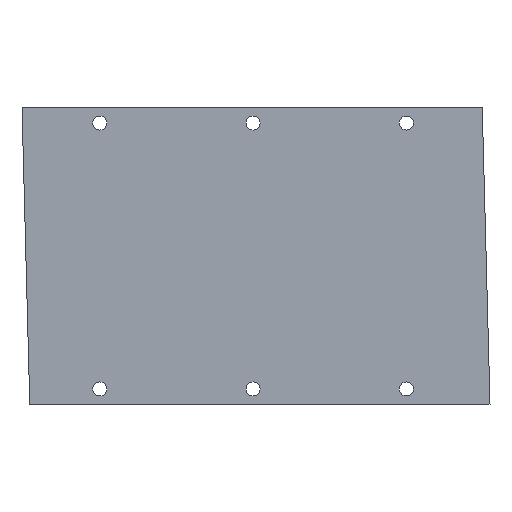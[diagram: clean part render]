
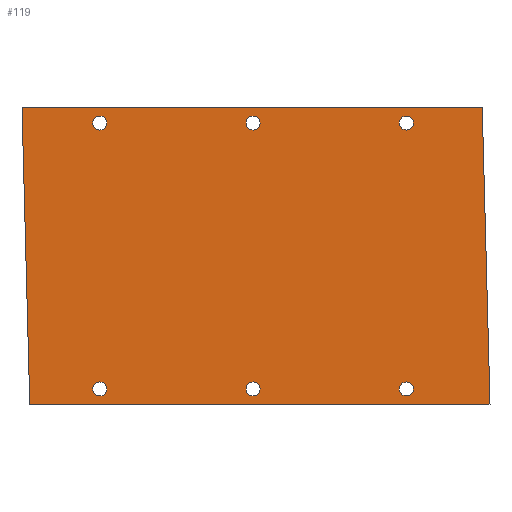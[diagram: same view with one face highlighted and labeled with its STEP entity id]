
A CAD part, front view. The second image highlights one B-rep face of the part: STEP entity #119.
In plain terms, the highlighted planar face has unit normal (0, -1, 0).
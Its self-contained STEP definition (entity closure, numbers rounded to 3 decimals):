
#8 = VERTEX_POINT ( 'NONE', #779 ) ;
#19 = VERTEX_POINT ( 'NONE', #731 ) ;
#37 = VERTEX_POINT ( 'NONE', #850 ) ;
#51 = EDGE_CURVE ( 'NONE', #84, #142, #832, .T. ) ;
#69 = EDGE_CURVE ( 'NONE', #37, #73, #857, .T. ) ;
#71 = EDGE_CURVE ( 'NONE', #19, #8, #858, .T. ) ;
#73 = VERTEX_POINT ( 'NONE', #889 ) ;
#84 = VERTEX_POINT ( 'NONE', #943 ) ;
#112 = ORIENTED_EDGE ( 'NONE', *, *, #117, .T. ) ;
#113 = EDGE_LOOP ( 'NONE', ( #383, #377 ) ) ;
#114 = EDGE_CURVE ( 'NONE', #8, #19, #967, .T. ) ;
#117 = EDGE_CURVE ( 'NONE', #73, #37, #285, .T. ) ;
#118 = EDGE_CURVE ( 'NONE', #142, #84, #1009, .T. ) ;
#119 = ADVANCED_FACE ( 'NONE', ( #1015, #1014, #1012, #1019, #1017, #1016, #1003 ), #1013, .F. ) ;
#123 = ORIENTED_EDGE ( 'NONE', *, *, #368, .F. ) ;
#142 = VERTEX_POINT ( 'NONE', #1078 ) ;
#148 = VERTEX_POINT ( 'NONE', #1050 ) ;
#156 = VERTEX_POINT ( 'NONE', #1052 ) ;
#158 = EDGE_CURVE ( 'NONE', #156, #148, #1073, .T. ) ;
#256 = VERTEX_POINT ( 'NONE', #1285 ) ;
#257 = VERTEX_POINT ( 'NONE', #1268 ) ;
#261 = VERTEX_POINT ( 'NONE', #1329 ) ;
#268 = EDGE_CURVE ( 'NONE', #270, #261, #1330, .T. ) ;
#270 = VERTEX_POINT ( 'NONE', #1311 ) ;
#276 = CARTESIAN_POINT ( 'NONE',  ( 621.854, 0., -111. ) ) ;
#285 = CIRCLE ( 'NONE', #660, 2.75 ) ;
#296 = VERTEX_POINT ( 'NONE', #1340 ) ;
#303 = EDGE_CURVE ( 'NONE', #296, #304, #1383, .T. ) ;
#304 = VERTEX_POINT ( 'NONE', #1341 ) ;
#337 = ORIENTED_EDGE ( 'NONE', *, *, #71, .T. ) ;
#339 = EDGE_LOOP ( 'NONE', ( #112, #412 ) ) ;
#340 = EDGE_LOOP ( 'NONE', ( #382, #337 ) ) ;
#346 = EDGE_CURVE ( 'NONE', #369, #296, #1458, .T. ) ;
#348 = VERTEX_POINT ( 'NONE', #1403 ) ;
#353 = EDGE_CURVE ( 'NONE', #348, #304, #1491, .T. ) ;
#368 = EDGE_CURVE ( 'NONE', #369, #348, #1477, .T. ) ;
#369 = VERTEX_POINT ( 'NONE', #1232 ) ;
#376 = ORIENTED_EDGE ( 'NONE', *, *, #400, .T. ) ;
#377 = ORIENTED_EDGE ( 'NONE', *, *, #51, .T. ) ;
#382 = ORIENTED_EDGE ( 'NONE', *, *, #114, .T. ) ;
#383 = ORIENTED_EDGE ( 'NONE', *, *, #118, .T. ) ;
#388 = EDGE_CURVE ( 'NONE', #257, #256, #1526, .T. ) ;
#389 = ORIENTED_EDGE ( 'NONE', *, *, #1925, .T. ) ;
#390 = ORIENTED_EDGE ( 'NONE', *, *, #353, .F. ) ;
#391 = ORIENTED_EDGE ( 'NONE', *, *, #346, .T. ) ;
#394 = ORIENTED_EDGE ( 'NONE', *, *, #411, .T. ) ;
#395 = EDGE_LOOP ( 'NONE', ( #376, #401 ) ) ;
#396 = EDGE_LOOP ( 'NONE', ( #394, #399 ) ) ;
#398 = ORIENTED_EDGE ( 'NONE', *, *, #388, .T. ) ;
#399 = ORIENTED_EDGE ( 'NONE', *, *, #158, .T. ) ;
#400 = EDGE_CURVE ( 'NONE', #261, #270, #1518, .T. ) ;
#401 = ORIENTED_EDGE ( 'NONE', *, *, #268, .T. ) ;
#402 = ORIENTED_EDGE ( 'NONE', *, *, #303, .T. ) ;
#409 = EDGE_LOOP ( 'NONE', ( #402, #390, #123, #391 ) ) ;
#410 = EDGE_LOOP ( 'NONE', ( #398, #389 ) ) ;
#411 = EDGE_CURVE ( 'NONE', #148, #156, #1503, .T. ) ;
#412 = ORIENTED_EDGE ( 'NONE', *, *, #69, .T. ) ;
#660 = AXIS2_PLACEMENT_3D ( 'NONE', #276, #947, #948 ) ;
#731 = CARTESIAN_POINT ( 'NONE',  ( 621.854, 0., -9.75 ) ) ;
#779 = CARTESIAN_POINT ( 'NONE',  ( 621.854, 0., -4.25 ) ) ;
#832 = CIRCLE ( 'NONE', #871, 2.75 ) ;
#850 = CARTESIAN_POINT ( 'NONE',  ( 621.854, 0., -113.75 ) ) ;
#857 = CIRCLE ( 'NONE', #901, 2.75 ) ;
#858 = CIRCLE ( 'NONE', #896, 2.75 ) ;
#869 = DIRECTION ( 'NONE',  ( 0., 0., 1. ) ) ;
#870 = DIRECTION ( 'NONE',  ( 0., 1., 0. ) ) ;
#871 = AXIS2_PLACEMENT_3D ( 'NONE', #877, #870, #869 ) ;
#877 = CARTESIAN_POINT ( 'NONE',  ( 561.854, 0., -7. ) ) ;
#886 = DIRECTION ( 'NONE',  ( 0., 0., 1. ) ) ;
#887 = DIRECTION ( 'NONE',  ( 0., 1., 0. ) ) ;
#888 = CARTESIAN_POINT ( 'NONE',  ( 621.854, 0., -7. ) ) ;
#889 = CARTESIAN_POINT ( 'NONE',  ( 621.854, 0., -108.25 ) ) ;
#896 = AXIS2_PLACEMENT_3D ( 'NONE', #888, #887, #886 ) ;
#898 = DIRECTION ( 'NONE',  ( 0., 0., 1. ) ) ;
#899 = DIRECTION ( 'NONE',  ( 0., 1., 0. ) ) ;
#900 = CARTESIAN_POINT ( 'NONE',  ( 621.854, 0., -111. ) ) ;
#901 = AXIS2_PLACEMENT_3D ( 'NONE', #900, #899, #898 ) ;
#943 = CARTESIAN_POINT ( 'NONE',  ( 561.854, 0., -9.75 ) ) ;
#947 = DIRECTION ( 'NONE',  ( 0., 1., 0. ) ) ;
#948 = DIRECTION ( 'NONE',  ( 0., 0., 1. ) ) ;
#957 = DIRECTION ( 'NONE',  ( 0., 0., 1. ) ) ;
#958 = DIRECTION ( 'NONE',  ( 0., 1., 0. ) ) ;
#959 = CARTESIAN_POINT ( 'NONE',  ( 621.854, 0., -7. ) ) ;
#960 = AXIS2_PLACEMENT_3D ( 'NONE', #959, #958, #957 ) ;
#967 = CIRCLE ( 'NONE', #960, 2.75 ) ;
#997 = DIRECTION ( 'NONE',  ( 0., 0., 1. ) ) ;
#1003 = FACE_OUTER_BOUND ( 'NONE', #409, .T. ) ;
#1005 = DIRECTION ( 'NONE',  ( 0., 0., 1. ) ) ;
#1006 = DIRECTION ( 'NONE',  ( 0., 1., 0. ) ) ;
#1007 = CARTESIAN_POINT ( 'NONE',  ( 561.854, 0., -7. ) ) ;
#1008 = AXIS2_PLACEMENT_3D ( 'NONE', #1007, #1006, #1005 ) ;
#1009 = CIRCLE ( 'NONE', #1008, 2.75 ) ;
#1010 = DIRECTION ( 'NONE',  ( 0., 1., 0. ) ) ;
#1011 = CARTESIAN_POINT ( 'NONE',  ( 394.308, 0., -59. ) ) ;
#1012 = FACE_BOUND ( 'NONE', #113, .T. ) ;
#1013 = PLANE ( 'NONE',  #1018 ) ;
#1014 = FACE_BOUND ( 'NONE', #339, .T. ) ;
#1015 = FACE_BOUND ( 'NONE', #340, .T. ) ;
#1016 = FACE_BOUND ( 'NONE', #410, .T. ) ;
#1017 = FACE_BOUND ( 'NONE', #395, .T. ) ;
#1018 = AXIS2_PLACEMENT_3D ( 'NONE', #1011, #1010, #997 ) ;
#1019 = FACE_BOUND ( 'NONE', #396, .T. ) ;
#1050 = CARTESIAN_POINT ( 'NONE',  ( 561.854, 0., -108.25 ) ) ;
#1052 = CARTESIAN_POINT ( 'NONE',  ( 561.854, 0., -113.75 ) ) ;
#1055 = CARTESIAN_POINT ( 'NONE',  ( 561.854, 0., -111. ) ) ;
#1073 = CIRCLE ( 'NONE', #1107, 2.75 ) ;
#1078 = CARTESIAN_POINT ( 'NONE',  ( 561.854, 0., -4.25 ) ) ;
#1091 = DIRECTION ( 'NONE',  ( 0., 0., 1. ) ) ;
#1100 = DIRECTION ( 'NONE',  ( 0., 1., 0. ) ) ;
#1107 = AXIS2_PLACEMENT_3D ( 'NONE', #1055, #1100, #1091 ) ;
#1232 = CARTESIAN_POINT ( 'NONE',  ( 474.521, 0., -117. ) ) ;
#1268 = CARTESIAN_POINT ( 'NONE',  ( 501.854, 0., -108.25 ) ) ;
#1285 = CARTESIAN_POINT ( 'NONE',  ( 501.854, 0., -113.75 ) ) ;
#1309 = DIRECTION ( 'NONE',  ( 0., 0., 1. ) ) ;
#1310 = DIRECTION ( 'NONE',  ( 0., 1., 0. ) ) ;
#1311 = CARTESIAN_POINT ( 'NONE',  ( 501.854, 0., -9.75 ) ) ;
#1318 = CARTESIAN_POINT ( 'NONE',  ( 501.854, 0., -7. ) ) ;
#1324 = AXIS2_PLACEMENT_3D ( 'NONE', #1318, #1310, #1309 ) ;
#1329 = CARTESIAN_POINT ( 'NONE',  ( 501.854, 0., -4.25 ) ) ;
#1330 = CIRCLE ( 'NONE', #1324, 2.75 ) ;
#1340 = CARTESIAN_POINT ( 'NONE',  ( 654.521, 0., -117. ) ) ;
#1341 = CARTESIAN_POINT ( 'NONE',  ( 651.484, 0., -1. ) ) ;
#1367 = DIRECTION ( 'NONE',  ( -0.026, 0., 1. ) ) ;
#1372 = VECTOR ( 'NONE', #1367, 1000. ) ;
#1373 = CARTESIAN_POINT ( 'NONE',  ( 652.825, 0., -52.23 ) ) ;
#1383 = LINE ( 'NONE', #1373, #1372 ) ;
#1403 = CARTESIAN_POINT ( 'NONE',  ( 471.484, 0., -1. ) ) ;
#1439 = VECTOR ( 'NONE', #1441, 1000. ) ;
#1441 = DIRECTION ( 'NONE',  ( 1., 0., 0. ) ) ;
#1442 = CARTESIAN_POINT ( 'NONE',  ( 394.308, 0., -117. ) ) ;
#1458 = LINE ( 'NONE', #1442, #1439 ) ;
#1465 = DIRECTION ( 'NONE',  ( -0.026, 0., 1. ) ) ;
#1466 = VECTOR ( 'NONE', #1465, 1000. ) ;
#1476 = CARTESIAN_POINT ( 'NONE',  ( 472.948, 0., -56.941 ) ) ;
#1477 = LINE ( 'NONE', #1476, #1466 ) ;
#1486 = DIRECTION ( 'NONE',  ( 1., 0., 0. ) ) ;
#1487 = VECTOR ( 'NONE', #1486, 1000. ) ;
#1488 = CARTESIAN_POINT ( 'NONE',  ( 394.308, 0., -1. ) ) ;
#1491 = LINE ( 'NONE', #1488, #1487 ) ;
#1495 = DIRECTION ( 'NONE',  ( 0., 0., 1. ) ) ;
#1496 = DIRECTION ( 'NONE',  ( 0., 1., 0. ) ) ;
#1497 = AXIS2_PLACEMENT_3D ( 'NONE', #1522, #1496, #1495 ) ;
#1499 = CARTESIAN_POINT ( 'NONE',  ( 561.854, 0., -111. ) ) ;
#1503 = CIRCLE ( 'NONE', #1547, 2.75 ) ;
#1508 = DIRECTION ( 'NONE',  ( 0., 0., 1. ) ) ;
#1509 = DIRECTION ( 'NONE',  ( 0., 1., 0. ) ) ;
#1510 = CARTESIAN_POINT ( 'NONE',  ( 501.854, 0., -111. ) ) ;
#1518 = CIRCLE ( 'NONE', #1497, 2.75 ) ;
#1522 = CARTESIAN_POINT ( 'NONE',  ( 501.854, 0., -7. ) ) ;
#1523 = AXIS2_PLACEMENT_3D ( 'NONE', #1510, #1509, #1508 ) ;
#1526 = CIRCLE ( 'NONE', #1523, 2.75 ) ;
#1545 = DIRECTION ( 'NONE',  ( 0., 0., 1. ) ) ;
#1546 = DIRECTION ( 'NONE',  ( 0., 1., 0. ) ) ;
#1547 = AXIS2_PLACEMENT_3D ( 'NONE', #1499, #1546, #1545 ) ;
#1925 = EDGE_CURVE ( 'NONE', #256, #257, #2785, .T. ) ;
#2764 = DIRECTION ( 'NONE',  ( 0., 0., 1. ) ) ;
#2765 = DIRECTION ( 'NONE',  ( 0., 1., 0. ) ) ;
#2779 = CARTESIAN_POINT ( 'NONE',  ( 501.854, 0., -111. ) ) ;
#2785 = CIRCLE ( 'NONE', #2786, 2.75 ) ;
#2786 = AXIS2_PLACEMENT_3D ( 'NONE', #2779, #2765, #2764 ) ;
